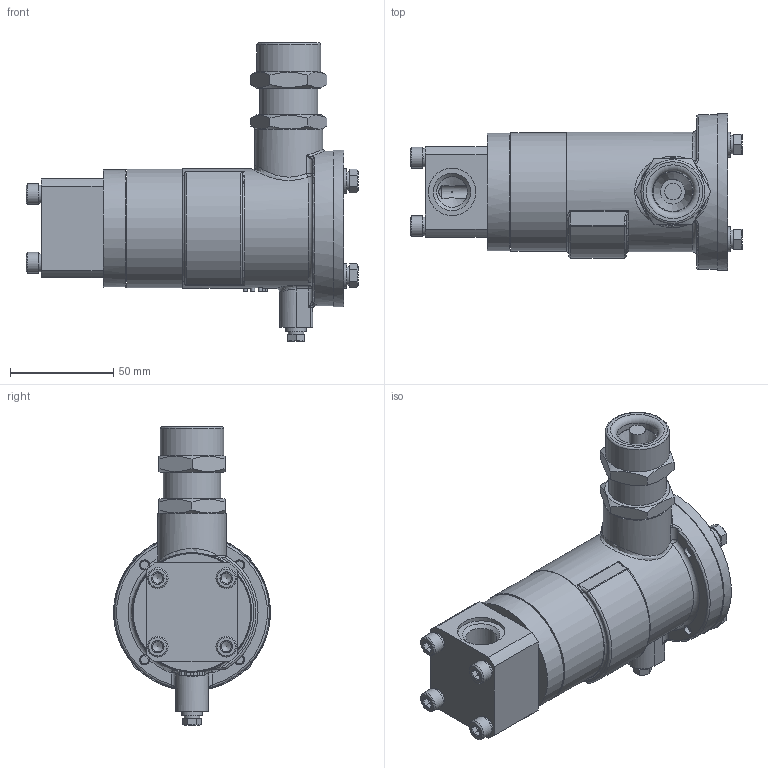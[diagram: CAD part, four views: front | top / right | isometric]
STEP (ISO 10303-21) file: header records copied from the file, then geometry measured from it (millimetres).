
FILE_DESCRIPTION(('STEP AP203'), '1');
FILE_NAME('捇迕 DN8PN6-G3_8-0', '', ('UNSPECIFIED'), ('UNSPECIFIED'), 'C3D Converter', 'C3D Toolkit', '');
FILE_SCHEMA(('CONFIG_CONTROL_DESIGN'));
Length unit declared in the file: millimetre
Bounding box: 160.9 x 76 x 144.7 mm (x, y, z)
Volume: 417470 mm3; surface area: 68058 mm2
Topology: 1 solids, 1 shells, 1115 faces, 2927 edges, 1879 vertices
Faces by surface type: plane 474, extrusion 399, cylinder 129, cone 63, bspline 25, torus 21, sphere 4
Full cylindrical faces by diameter (mm): 1.8 x1, 3.1 x2, 3.5 x4, 4.917 x8, 5 x5, 5.3 x1, 6 x8, 6.4 x4, 6.5 x5, 7 x5, 8 x1, 10 x6, 12 x5, 14.95 x2, 20 x1, 22 x1, 23 x2, 25 x1, 26 x1, 28 x2, 31 x1, 32 x1, 33 x1, 36 x1, 57 x1, 57.5 x1, 58 x1, 75 x1, 76 x1
Entity records: 49626 total; most frequent: CARTESIAN_POINT 15674, ORIENTED_EDGE 5506, DIRECTION 3956, EDGE_CURVE 2753, VERTEX_POINT 1867, VECTOR 1716, B_SPLINE_CURVE_WITH_KNOTS 1371, EDGE_LOOP 1362
